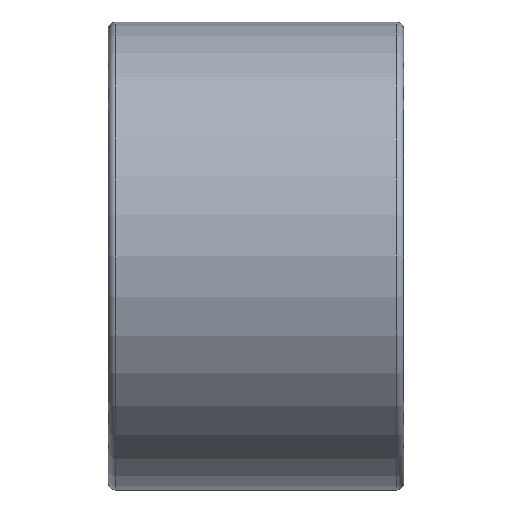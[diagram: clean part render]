
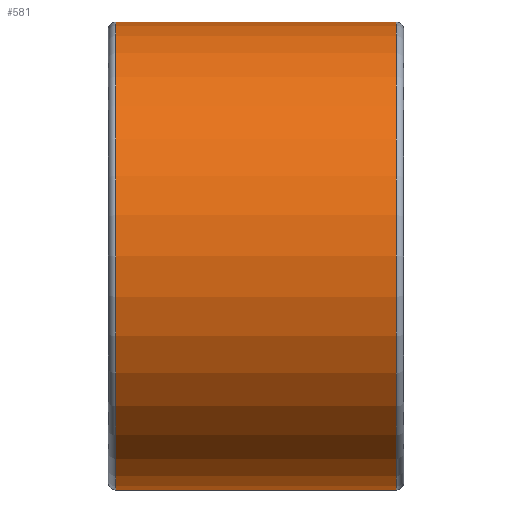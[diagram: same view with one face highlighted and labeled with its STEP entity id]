
A CAD part, left-side view. The second image highlights one B-rep face of the part: STEP entity #581.
In plain terms, the highlighted cylindrical face has radius 317 mm (diameter 634 mm), a full revolution.
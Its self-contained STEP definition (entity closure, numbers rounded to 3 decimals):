
#57=FACE_BOUND('',#191,.T.);
#123=FACE_OUTER_BOUND('',#190,.T.);
#190=EDGE_LOOP('',(#460));
#191=EDGE_LOOP('',(#461));
#284=CIRCLE('',#667,317.);
#286=CIRCLE('',#670,317.);
#338=VERTEX_POINT('',#1018);
#340=VERTEX_POINT('',#1023);
#392=EDGE_CURVE('',#338,#338,#284,.T.);
#394=EDGE_CURVE('',#340,#340,#286,.T.);
#460=ORIENTED_EDGE('',*,*,#394,.F.);
#461=ORIENTED_EDGE('',*,*,#392,.F.);
#542=CYLINDRICAL_SURFACE('',#669,317.);
#581=ADVANCED_FACE('',(#123,#57),#542,.T.);
#667=AXIS2_PLACEMENT_3D('',#1019,#826,#827);
#669=AXIS2_PLACEMENT_3D('',#1022,#830,#831);
#670=AXIS2_PLACEMENT_3D('',#1024,#832,#833);
#826=DIRECTION('center_axis',(0.,1.,0.));
#827=DIRECTION('ref_axis',(1.,0.,0.));
#830=DIRECTION('center_axis',(0.,1.,0.));
#831=DIRECTION('ref_axis',(1.,0.,0.));
#832=DIRECTION('center_axis',(0.,-1.,0.));
#833=DIRECTION('ref_axis',(1.,0.,0.));
#1018=CARTESIAN_POINT('',(-317.,190.,0.));
#1019=CARTESIAN_POINT('Origin',(0.,190.,0.));
#1022=CARTESIAN_POINT('Origin',(0.,0.,0.));
#1023=CARTESIAN_POINT('',(-317.,-190.,0.));
#1024=CARTESIAN_POINT('Origin',(0.,-190.,0.));
